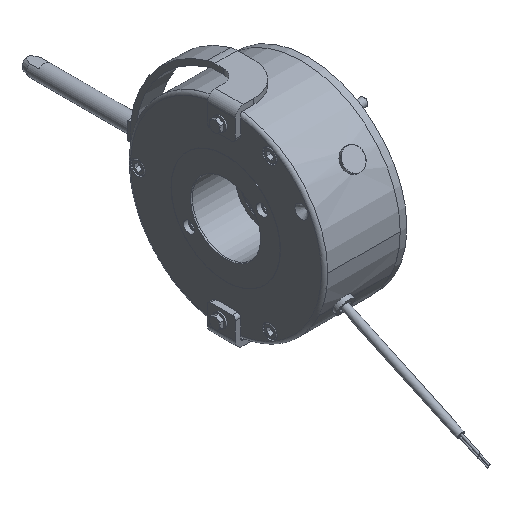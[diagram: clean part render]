
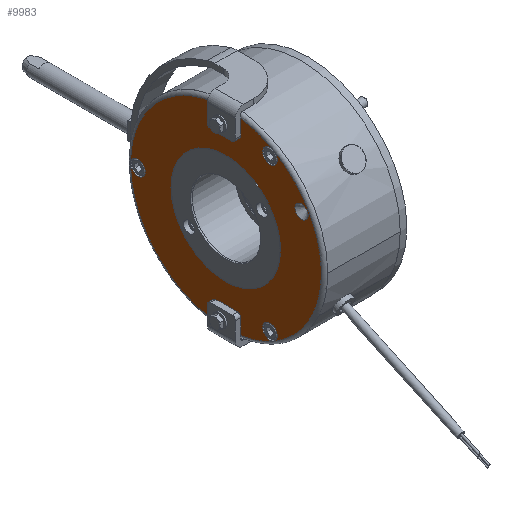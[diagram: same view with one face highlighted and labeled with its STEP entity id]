
A CAD part, isometric view. The second image highlights one B-rep face of the part: STEP entity #9983.
In plain terms, the highlighted planar face has unit normal (-1, 0, 0).
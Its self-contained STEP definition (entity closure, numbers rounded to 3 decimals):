
#226=PLANE('',#10727);
#336=FACE_BOUND('',#1109,.T.);
#337=FACE_BOUND('',#1110,.T.);
#338=FACE_BOUND('',#1111,.T.);
#339=FACE_BOUND('',#1112,.T.);
#340=FACE_BOUND('',#1113,.T.);
#527=FACE_OUTER_BOUND('',#1108,.T.);
#1108=EDGE_LOOP('',(#6709,#6710,#6711,#6712,#6713,#6714,#6715,#6716,#6717,
#6718,#6719,#6720));
#1109=EDGE_LOOP('',(#6721,#6722));
#1110=EDGE_LOOP('',(#6723,#6724));
#1111=EDGE_LOOP('',(#6725,#6726));
#1112=EDGE_LOOP('',(#6727,#6728));
#1113=EDGE_LOOP('',(#6729,#6730));
#1916=CIRCLE('',#10634,41.);
#1917=CIRCLE('',#10635,41.);
#1921=CIRCLE('',#10641,5.5);
#1922=CIRCLE('',#10642,5.5);
#1926=CIRCLE('',#10649,5.5);
#1927=CIRCLE('',#10650,5.5);
#1931=CIRCLE('',#10657,5.5);
#1932=CIRCLE('',#10658,5.5);
#1939=CIRCLE('',#10668,71.501);
#1941=CIRCLE('',#10670,71.501);
#1973=CIRCLE('',#10716,5.);
#1974=CIRCLE('',#10717,5.);
#1980=CIRCLE('',#10728,2.5);
#1981=CIRCLE('',#10729,2.5);
#1982=CIRCLE('',#10730,2.5);
#1983=CIRCLE('',#10731,2.5);
#2573=LINE('',#15504,#3122);
#2574=LINE('',#15506,#3123);
#2575=LINE('',#15510,#3124);
#2576=LINE('',#15513,#3125);
#2577=LINE('',#15515,#3126);
#2578=LINE('',#15519,#3127);
#3122=VECTOR('',#12371,10.);
#3123=VECTOR('',#12372,10.);
#3124=VECTOR('',#12375,10.);
#3125=VECTOR('',#12378,10.);
#3126=VECTOR('',#12379,10.);
#3127=VECTOR('',#12382,10.);
#3729=VERTEX_POINT('',#15251);
#3730=VERTEX_POINT('',#15252);
#3734=VERTEX_POINT('',#15265);
#3735=VERTEX_POINT('',#15266);
#3739=VERTEX_POINT('',#15280);
#3740=VERTEX_POINT('',#15281);
#3744=VERTEX_POINT('',#15295);
#3745=VERTEX_POINT('',#15296);
#3749=VERTEX_POINT('',#15330);
#3750=VERTEX_POINT('',#15332);
#3751=VERTEX_POINT('',#15334);
#3752=VERTEX_POINT('',#15336);
#3789=VERTEX_POINT('',#15478);
#3790=VERTEX_POINT('',#15479);
#3797=VERTEX_POINT('',#15503);
#3798=VERTEX_POINT('',#15505);
#3799=VERTEX_POINT('',#15507);
#3800=VERTEX_POINT('',#15509);
#3801=VERTEX_POINT('',#15511);
#3802=VERTEX_POINT('',#15514);
#3803=VERTEX_POINT('',#15516);
#3804=VERTEX_POINT('',#15518);
#4813=EDGE_CURVE('',#3729,#3730,#1916,.T.);
#4814=EDGE_CURVE('',#3730,#3729,#1917,.T.);
#4820=EDGE_CURVE('',#3734,#3735,#1921,.T.);
#4821=EDGE_CURVE('',#3735,#3734,#1922,.T.);
#4827=EDGE_CURVE('',#3739,#3740,#1926,.T.);
#4828=EDGE_CURVE('',#3740,#3739,#1927,.T.);
#4834=EDGE_CURVE('',#3744,#3745,#1931,.T.);
#4835=EDGE_CURVE('',#3745,#3744,#1932,.T.);
#4844=EDGE_CURVE('',#3749,#3750,#1939,.T.);
#4846=EDGE_CURVE('',#3751,#3752,#1941,.T.);
#4895=EDGE_CURVE('',#3789,#3790,#1973,.T.);
#4896=EDGE_CURVE('',#3790,#3789,#1974,.T.);
#4907=EDGE_CURVE('',#3797,#3752,#2573,.T.);
#4908=EDGE_CURVE('',#3751,#3798,#2574,.T.);
#4909=EDGE_CURVE('',#3798,#3799,#1980,.T.);
#4910=EDGE_CURVE('',#3799,#3800,#2575,.T.);
#4911=EDGE_CURVE('',#3800,#3801,#1981,.T.);
#4912=EDGE_CURVE('',#3801,#3750,#2576,.T.);
#4913=EDGE_CURVE('',#3749,#3802,#2577,.T.);
#4914=EDGE_CURVE('',#3802,#3803,#1982,.T.);
#4915=EDGE_CURVE('',#3803,#3804,#2578,.T.);
#4916=EDGE_CURVE('',#3804,#3797,#1983,.T.);
#6709=ORIENTED_EDGE('',*,*,#4907,.T.);
#6710=ORIENTED_EDGE('',*,*,#4846,.F.);
#6711=ORIENTED_EDGE('',*,*,#4908,.T.);
#6712=ORIENTED_EDGE('',*,*,#4909,.T.);
#6713=ORIENTED_EDGE('',*,*,#4910,.T.);
#6714=ORIENTED_EDGE('',*,*,#4911,.T.);
#6715=ORIENTED_EDGE('',*,*,#4912,.T.);
#6716=ORIENTED_EDGE('',*,*,#4844,.F.);
#6717=ORIENTED_EDGE('',*,*,#4913,.T.);
#6718=ORIENTED_EDGE('',*,*,#4914,.T.);
#6719=ORIENTED_EDGE('',*,*,#4915,.T.);
#6720=ORIENTED_EDGE('',*,*,#4916,.T.);
#6721=ORIENTED_EDGE('',*,*,#4895,.T.);
#6722=ORIENTED_EDGE('',*,*,#4896,.T.);
#6723=ORIENTED_EDGE('',*,*,#4813,.T.);
#6724=ORIENTED_EDGE('',*,*,#4814,.T.);
#6725=ORIENTED_EDGE('',*,*,#4820,.T.);
#6726=ORIENTED_EDGE('',*,*,#4821,.T.);
#6727=ORIENTED_EDGE('',*,*,#4827,.T.);
#6728=ORIENTED_EDGE('',*,*,#4828,.T.);
#6729=ORIENTED_EDGE('',*,*,#4834,.T.);
#6730=ORIENTED_EDGE('',*,*,#4835,.T.);
#9983=ADVANCED_FACE('',(#527,#336,#337,#338,#339,#340),#226,.T.);
#10634=AXIS2_PLACEMENT_3D('',#15253,#12159,#12160);
#10635=AXIS2_PLACEMENT_3D('',#15254,#12161,#12162);
#10641=AXIS2_PLACEMENT_3D('',#15267,#12175,#12176);
#10642=AXIS2_PLACEMENT_3D('',#15268,#12177,#12178);
#10649=AXIS2_PLACEMENT_3D('',#15282,#12193,#12194);
#10650=AXIS2_PLACEMENT_3D('',#15283,#12195,#12196);
#10657=AXIS2_PLACEMENT_3D('',#15297,#12211,#12212);
#10658=AXIS2_PLACEMENT_3D('',#15298,#12213,#12214);
#10668=AXIS2_PLACEMENT_3D('',#15333,#12234,#12235);
#10670=AXIS2_PLACEMENT_3D('',#15337,#12238,#12239);
#10716=AXIS2_PLACEMENT_3D('',#15480,#12342,#12343);
#10717=AXIS2_PLACEMENT_3D('',#15481,#12344,#12345);
#10727=AXIS2_PLACEMENT_3D('',#15502,#12369,#12370);
#10728=AXIS2_PLACEMENT_3D('',#15508,#12373,#12374);
#10729=AXIS2_PLACEMENT_3D('',#15512,#12376,#12377);
#10730=AXIS2_PLACEMENT_3D('',#15517,#12380,#12381);
#10731=AXIS2_PLACEMENT_3D('',#15520,#12383,#12384);
#12159=DIRECTION('center_axis',(1.,0.,0.));
#12160=DIRECTION('ref_axis',(0.,1.,0.));
#12161=DIRECTION('center_axis',(1.,0.,0.));
#12162=DIRECTION('ref_axis',(0.,1.,0.));
#12175=DIRECTION('center_axis',(1.,0.,0.));
#12176=DIRECTION('ref_axis',(0.,0.,1.));
#12177=DIRECTION('center_axis',(1.,0.,0.));
#12178=DIRECTION('ref_axis',(0.,0.,1.));
#12193=DIRECTION('center_axis',(1.,0.,0.));
#12194=DIRECTION('ref_axis',(0.,0.,1.));
#12195=DIRECTION('center_axis',(1.,0.,0.));
#12196=DIRECTION('ref_axis',(0.,0.,1.));
#12211=DIRECTION('center_axis',(1.,0.,0.));
#12212=DIRECTION('ref_axis',(0.,0.,1.));
#12213=DIRECTION('center_axis',(1.,0.,0.));
#12214=DIRECTION('ref_axis',(0.,0.,1.));
#12234=DIRECTION('center_axis',(1.,0.,0.));
#12235=DIRECTION('ref_axis',(0.,-1.,0.));
#12238=DIRECTION('center_axis',(1.,0.,0.));
#12239=DIRECTION('ref_axis',(0.,-1.,0.));
#12342=DIRECTION('center_axis',(1.,0.,0.));
#12343=DIRECTION('ref_axis',(0.,0.,1.));
#12344=DIRECTION('center_axis',(1.,0.,0.));
#12345=DIRECTION('ref_axis',(0.,0.,1.));
#12369=DIRECTION('center_axis',(-1.,0.,0.));
#12370=DIRECTION('ref_axis',(0.,0.,1.));
#12371=DIRECTION('',(0.,0.,1.));
#12372=DIRECTION('',(0.,0.,1.));
#12373=DIRECTION('center_axis',(1.,0.,0.));
#12374=DIRECTION('ref_axis',(0.,0.707,0.707));
#12375=DIRECTION('',(0.,-1.,0.));
#12376=DIRECTION('center_axis',(1.,0.,0.));
#12377=DIRECTION('ref_axis',(0.,-0.707,0.707));
#12378=DIRECTION('',(0.,0.,-1.));
#12379=DIRECTION('',(0.,0.,-1.));
#12380=DIRECTION('center_axis',(1.,0.,0.));
#12381=DIRECTION('ref_axis',(0.,-0.707,-0.707));
#12382=DIRECTION('',(0.,1.,0.));
#12383=DIRECTION('center_axis',(1.,0.,0.));
#12384=DIRECTION('ref_axis',(0.,0.707,-0.707));
#15251=CARTESIAN_POINT('',(-56.9,41.,0.));
#15252=CARTESIAN_POINT('',(-56.9,-41.,0.));
#15253=CARTESIAN_POINT('Origin',(-56.9,0.,0.));
#15254=CARTESIAN_POINT('Origin',(-56.9,0.,0.));
#15265=CARTESIAN_POINT('',(-56.9,66.,5.5));
#15266=CARTESIAN_POINT('',(-56.9,66.,-5.5));
#15267=CARTESIAN_POINT('Origin',(-56.9,66.,0.));
#15268=CARTESIAN_POINT('Origin',(-56.9,66.,0.));
#15280=CARTESIAN_POINT('',(-56.9,-33.,-51.658));
#15281=CARTESIAN_POINT('',(-56.9,-33.,-62.658));
#15282=CARTESIAN_POINT('Origin',(-56.9,-33.,-57.158));
#15283=CARTESIAN_POINT('Origin',(-56.9,-33.,-57.158));
#15295=CARTESIAN_POINT('',(-56.9,-33.,62.658));
#15296=CARTESIAN_POINT('',(-56.9,-33.,51.658));
#15297=CARTESIAN_POINT('Origin',(-56.9,-33.,57.158));
#15298=CARTESIAN_POINT('Origin',(-56.9,-33.,57.158));
#15330=CARTESIAN_POINT('',(-56.9,-11.,70.65));
#15332=CARTESIAN_POINT('',(-56.9,-11.,-70.65));
#15333=CARTESIAN_POINT('Origin',(-56.9,0.,0.));
#15334=CARTESIAN_POINT('',(-56.9,10.,-70.798));
#15336=CARTESIAN_POINT('',(-56.9,10.,70.798));
#15337=CARTESIAN_POINT('Origin',(-56.9,0.,0.));
#15478=CARTESIAN_POINT('',(-56.9,-56.811,37.8));
#15479=CARTESIAN_POINT('',(-56.9,-56.811,27.8));
#15480=CARTESIAN_POINT('Origin',(-56.9,-56.811,32.8));
#15481=CARTESIAN_POINT('Origin',(-56.9,-56.811,32.8));
#15502=CARTESIAN_POINT('Origin',(-56.9,57.5,0.));
#15503=CARTESIAN_POINT('',(-56.9,10.,59.));
#15504=CARTESIAN_POINT('',(-56.9,10.,37.25));
#15505=CARTESIAN_POINT('',(-56.9,10.,-59.));
#15506=CARTESIAN_POINT('',(-56.9,10.,-39.25));
#15507=CARTESIAN_POINT('',(-56.9,7.5,-56.5));
#15508=CARTESIAN_POINT('Origin',(-56.9,7.5,-59.));
#15509=CARTESIAN_POINT('',(-56.9,-8.5,-56.5));
#15510=CARTESIAN_POINT('',(-56.9,33.75,-56.5));
#15511=CARTESIAN_POINT('',(-56.9,-11.,-59.));
#15512=CARTESIAN_POINT('Origin',(-56.9,-8.5,-59.));
#15513=CARTESIAN_POINT('',(-56.9,-11.,-37.25));
#15514=CARTESIAN_POINT('',(-56.9,-11.,59.));
#15515=CARTESIAN_POINT('',(-56.9,-11.,39.25));
#15516=CARTESIAN_POINT('',(-56.9,-8.5,56.5));
#15517=CARTESIAN_POINT('Origin',(-56.9,-8.5,59.));
#15518=CARTESIAN_POINT('',(-56.9,7.5,56.5));
#15519=CARTESIAN_POINT('',(-56.9,23.25,56.5));
#15520=CARTESIAN_POINT('Origin',(-56.9,7.5,59.));
